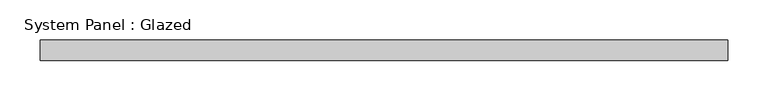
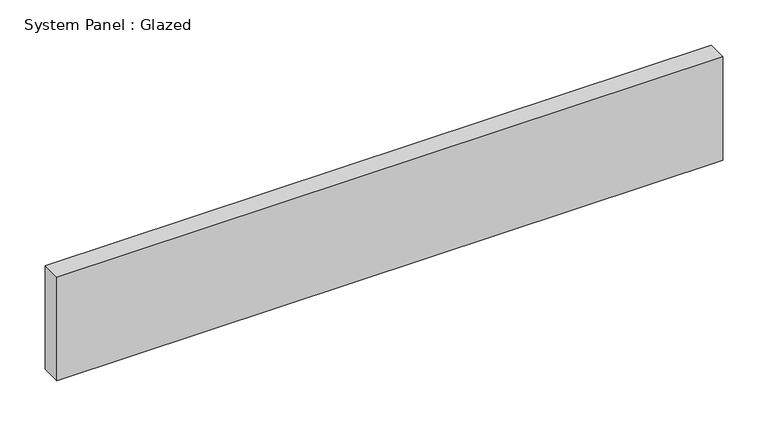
"""IFC4 building model written with IfcOpenShell, lengths in millimetres: plate geometry, System Panel : Glazed."""

from ifc_helpers import new_model, si_unit, origin, origin_with_axes, place, context, project, spatial, polyline, outline, extrude, source, transform, mapped, element, save


def system_panel_glazed_9a2244e3(model_context):
    return source(origin(), model_context, "Body", "SweptSolid", [
        extrude(outline(polyline([(425.45, -44.45), (-425.45, -44.45), (-425.45, -19.05), (425.45, -19.05), (425.45, -44.45)])), origin_with_axes(), (0.0, 0.0, 1.0), 139.7),
    ])


if __name__ == "__main__":
    model = new_model("IFC4")
    model_context = context("Model", 3, world=origin())
    ifc_project = project(units=[si_unit("LENGTHUNIT", "METRE", prefix="MILLI")], contexts=[model_context])
    site = spatial("IfcSite", under=ifc_project)
    building = spatial("IfcBuilding", under=site)
    placement = place(None, origin())
    system_panel_glazed_shape = system_panel_glazed_9a2244e3(model_context)
    element("IfcPlate", 1, ObjectType="System Panel : Glazed", at=placement, inside=building, context=model_context, shape_type="MappedRepresentation", body=[
        mapped(system_panel_glazed_shape, transform((0.0, 0.0, 0.0), x_axis=(1.0, 0.0, 0.0), y_axis=(0.0, 1.0, 0.0), z_axis=(0.0, 0.0, 1.0))),
    ])
    save(model, "model.ifc")
